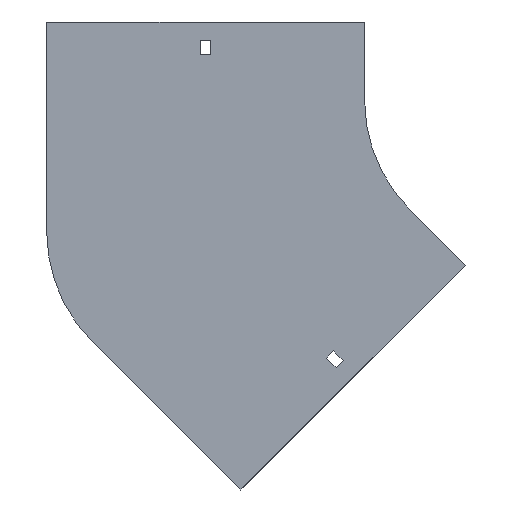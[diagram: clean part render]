
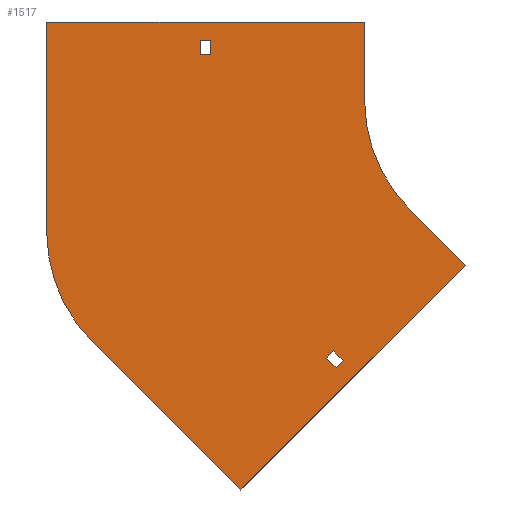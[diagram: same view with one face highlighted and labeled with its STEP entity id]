
A CAD part, front view. The second image highlights one B-rep face of the part: STEP entity #1517.
In plain terms, the highlighted planar face has unit normal (0, -1, 0).
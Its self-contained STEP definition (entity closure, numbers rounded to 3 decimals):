
#7 = EDGE_CURVE ( 'NONE', #1308, #278, #1771, .T. ) ;
#12 = VECTOR ( 'NONE', #1268, 1000. ) ;
#16 = AXIS2_PLACEMENT_3D ( 'NONE', #1565, #821, #1305 ) ;
#19 = EDGE_LOOP ( 'NONE', ( #1225, #579, #603, #1853 ) ) ;
#35 = DIRECTION ( 'NONE',  ( -1., 0., 0. ) ) ;
#61 = CARTESIAN_POINT ( 'NONE',  ( -304., 0., -84.5 ) ) ;
#72 = CARTESIAN_POINT ( 'NONE',  ( -120.031, 0., -161.044 ) ) ;
#85 = LINE ( 'NONE', #1437, #1047 ) ;
#93 = CARTESIAN_POINT ( 'NONE',  ( -118.264, 0., -172.004 ) ) ;
#123 = CARTESIAN_POINT ( 'NONE',  ( -70.711, 0., -70.711 ) ) ;
#142 = VECTOR ( 'NONE', #1684, 1000. ) ;
#168 = EDGE_CURVE ( 'NONE', #1667, #1837, #963, .T. ) ;
#182 = VERTEX_POINT ( 'NONE', #311 ) ;
#205 = CARTESIAN_POINT ( 'NONE',  ( -100., 0., 0. ) ) ;
#226 = VECTOR ( 'NONE', #1662, 1000. ) ;
#239 = VERTEX_POINT ( 'NONE', #565 ) ;
#243 = DIRECTION ( 'NONE',  ( 0., 0., -1. ) ) ;
#247 = EDGE_CURVE ( 'NONE', #1193, #880, #1175, .T. ) ;
#257 = VERTEX_POINT ( 'NONE', #1311 ) ;
#261 = LINE ( 'NONE', #93, #965 ) ;
#278 = VERTEX_POINT ( 'NONE', #827 ) ;
#282 = AXIS2_PLACEMENT_3D ( 'NONE', #1033, #1480, #1335 ) ;
#284 = EDGE_CURVE ( 'NONE', #182, #1865, #85, .T. ) ;
#301 = DIRECTION ( 'NONE',  ( 1., 0., 0. ) ) ;
#311 = CARTESIAN_POINT ( 'NONE',  ( -205.25, 0., 38. ) ) ;
#317 = VERTEX_POINT ( 'NONE', #1447 ) ;
#334 = CARTESIAN_POINT ( 'NONE',  ( -198.75, 0., 29. ) ) ;
#365 = FACE_BOUND ( 'NONE', #1461, .T. ) ;
#366 = ORIENTED_EDGE ( 'NONE', *, *, #7, .F. ) ;
#368 = CARTESIAN_POINT ( 'NONE',  ( -304., 0., 50. ) ) ;
#403 = ORIENTED_EDGE ( 'NONE', *, *, #247, .F. ) ;
#412 = ORIENTED_EDGE ( 'NONE', *, *, #1659, .T. ) ;
#424 = EDGE_CURVE ( 'NONE', #1837, #239, #1793, .T. ) ;
#443 = VECTOR ( 'NONE', #35, 1000. ) ;
#462 = VECTOR ( 'NONE', #618, 1000. ) ;
#471 = CARTESIAN_POINT ( 'NONE',  ( -113.667, 0., -167.408 ) ) ;
#548 = VERTEX_POINT ( 'NONE', #1550 ) ;
#551 = ORIENTED_EDGE ( 'NONE', *, *, #654, .F. ) ;
#565 = CARTESIAN_POINT ( 'NONE',  ( -124.628, 0., -165.64 ) ) ;
#579 = ORIENTED_EDGE ( 'NONE', *, *, #1531, .F. ) ;
#603 = ORIENTED_EDGE ( 'NONE', *, *, #424, .F. ) ;
#618 = DIRECTION ( 'NONE',  ( 0., 0., 1. ) ) ;
#627 = CIRCLE ( 'NONE', #282, 100. ) ;
#654 = EDGE_CURVE ( 'NONE', #317, #783, #1436, .T. ) ;
#661 = ORIENTED_EDGE ( 'NONE', *, *, #685, .F. ) ;
#672 = EDGE_CURVE ( 'NONE', #736, #1667, #261, .T. ) ;
#685 = EDGE_CURVE ( 'NONE', #783, #1308, #1445, .T. ) ;
#712 = CIRCLE ( 'NONE', #1181, 100. ) ;
#714 = CARTESIAN_POINT ( 'NONE',  ( -35.355, 0., -106.066 ) ) ;
#736 = VERTEX_POINT ( 'NONE', #1741 ) ;
#783 = VERTEX_POINT ( 'NONE', #1034 ) ;
#802 = ORIENTED_EDGE ( 'NONE', *, *, #1515, .T. ) ;
#821 = DIRECTION ( 'NONE',  ( 0., -1., 0. ) ) ;
#827 = CARTESIAN_POINT ( 'NONE',  ( -274.711, 0., -155.21 ) ) ;
#838 = VECTOR ( 'NONE', #995, 1000. ) ;
#856 = CARTESIAN_POINT ( 'NONE',  ( -179.605, 0., -250.316 ) ) ;
#865 = VECTOR ( 'NONE', #1120, 1000. ) ;
#876 = VERTEX_POINT ( 'NONE', #1077 ) ;
#880 = VERTEX_POINT ( 'NONE', #205 ) ;
#888 = CARTESIAN_POINT ( 'NONE',  ( -124.628, 0., -165.64 ) ) ;
#948 = CARTESIAN_POINT ( 'NONE',  ( -179.605, 0., -250.316 ) ) ;
#963 = LINE ( 'NONE', #72, #12 ) ;
#965 = VECTOR ( 'NONE', #1163, 1000. ) ;
#966 = EDGE_CURVE ( 'NONE', #257, #1070, #1363, .T. ) ;
#970 = PLANE ( 'NONE',  #16 ) ;
#987 = DIRECTION ( 'NONE',  ( 0., 0., -1. ) ) ;
#995 = DIRECTION ( 'NONE',  ( 0.707, 0., -0.707 ) ) ;
#1017 = DIRECTION ( 'NONE',  ( 1., 0., 0. ) ) ;
#1033 = CARTESIAN_POINT ( 'NONE',  ( -204., 0., -84.5 ) ) ;
#1034 = CARTESIAN_POINT ( 'NONE',  ( -35.355, 0., -106.066 ) ) ;
#1047 = VECTOR ( 'NONE', #1017, 1000. ) ;
#1063 = CARTESIAN_POINT ( 'NONE',  ( -100., 0., 50. ) ) ;
#1070 = VERTEX_POINT ( 'NONE', #368 ) ;
#1077 = CARTESIAN_POINT ( 'NONE',  ( -205.25, 0., 29. ) ) ;
#1096 = LINE ( 'NONE', #1834, #443 ) ;
#1115 = VECTOR ( 'NONE', #1905, 1000. ) ;
#1120 = DIRECTION ( 'NONE',  ( 0., 0., 1. ) ) ;
#1124 = VECTOR ( 'NONE', #1309, 1000. ) ;
#1163 = DIRECTION ( 'NONE',  ( 0.707, 0., 0.707 ) ) ;
#1175 = LINE ( 'NONE', #1890, #1774 ) ;
#1181 = AXIS2_PLACEMENT_3D ( 'NONE', #1706, #1871, #987 ) ;
#1186 = ORIENTED_EDGE ( 'NONE', *, *, #1249, .F. ) ;
#1187 = CARTESIAN_POINT ( 'NONE',  ( -304., 0., 50. ) ) ;
#1193 = VERTEX_POINT ( 'NONE', #1063 ) ;
#1207 = ORIENTED_EDGE ( 'NONE', *, *, #1236, .F. ) ;
#1223 = LINE ( 'NONE', #334, #142 ) ;
#1225 = ORIENTED_EDGE ( 'NONE', *, *, #672, .F. ) ;
#1236 = EDGE_CURVE ( 'NONE', #278, #257, #627, .T. ) ;
#1249 = EDGE_CURVE ( 'NONE', #1070, #1193, #1646, .T. ) ;
#1258 = VECTOR ( 'NONE', #1624, 1000. ) ;
#1268 = DIRECTION ( 'NONE',  ( -0.707, 0., 0.707 ) ) ;
#1286 = CARTESIAN_POINT ( 'NONE',  ( -205.25, 0., 29. ) ) ;
#1287 = EDGE_LOOP ( 'NONE', ( #1186, #1873, #1207, #366, #661, #551, #1489, #403 ) ) ;
#1305 = DIRECTION ( 'NONE',  ( 0., 0., -1. ) ) ;
#1308 = VERTEX_POINT ( 'NONE', #948 ) ;
#1309 = DIRECTION ( 'NONE',  ( -0.707, 0., -0.707 ) ) ;
#1311 = CARTESIAN_POINT ( 'NONE',  ( -304., 0., -84.5 ) ) ;
#1335 = DIRECTION ( 'NONE',  ( 0., 0., 1. ) ) ;
#1342 = ORIENTED_EDGE ( 'NONE', *, *, #1704, .T. ) ;
#1363 = LINE ( 'NONE', #61, #462 ) ;
#1379 = VECTOR ( 'NONE', #301, 1000. ) ;
#1436 = LINE ( 'NONE', #123, #838 ) ;
#1437 = CARTESIAN_POINT ( 'NONE',  ( -205.25, 0., 38. ) ) ;
#1445 = LINE ( 'NONE', #714, #1124 ) ;
#1447 = CARTESIAN_POINT ( 'NONE',  ( -70.711, 0., -70.711 ) ) ;
#1461 = EDGE_LOOP ( 'NONE', ( #802, #1767, #1342, #412 ) ) ;
#1480 = DIRECTION ( 'NONE',  ( 0., 1., 0. ) ) ;
#1489 = ORIENTED_EDGE ( 'NONE', *, *, #1830, .F. ) ;
#1515 = EDGE_CURVE ( 'NONE', #876, #182, #1712, .T. ) ;
#1517 = ADVANCED_FACE ( 'NONE', ( #365, #1721, #1894 ), #970, .T. ) ;
#1531 = EDGE_CURVE ( 'NONE', #239, #736, #1729, .T. ) ;
#1550 = CARTESIAN_POINT ( 'NONE',  ( -198.75, 0., 29. ) ) ;
#1565 = CARTESIAN_POINT ( 'NONE',  ( 0., 0., 0. ) ) ;
#1581 = CARTESIAN_POINT ( 'NONE',  ( -120.031, 0., -161.044 ) ) ;
#1591 = CARTESIAN_POINT ( 'NONE',  ( -198.75, 0., 38. ) ) ;
#1624 = DIRECTION ( 'NONE',  ( -0.707, 0., 0.707 ) ) ;
#1646 = LINE ( 'NONE', #1187, #1379 ) ;
#1659 = EDGE_CURVE ( 'NONE', #548, #876, #1096, .T. ) ;
#1662 = DIRECTION ( 'NONE',  ( -0.707, 0., -0.707 ) ) ;
#1667 = VERTEX_POINT ( 'NONE', #471 ) ;
#1684 = DIRECTION ( 'NONE',  ( 0., 0., -1. ) ) ;
#1704 = EDGE_CURVE ( 'NONE', #1865, #548, #1223, .T. ) ;
#1706 = CARTESIAN_POINT ( 'NONE',  ( 0., 0., 0. ) ) ;
#1712 = LINE ( 'NONE', #1286, #865 ) ;
#1721 = FACE_OUTER_BOUND ( 'NONE', #1287, .T. ) ;
#1729 = LINE ( 'NONE', #1881, #1115 ) ;
#1741 = CARTESIAN_POINT ( 'NONE',  ( -118.264, 0., -172.004 ) ) ;
#1767 = ORIENTED_EDGE ( 'NONE', *, *, #284, .T. ) ;
#1771 = LINE ( 'NONE', #856, #1258 ) ;
#1774 = VECTOR ( 'NONE', #243, 1000. ) ;
#1793 = LINE ( 'NONE', #888, #226 ) ;
#1830 = EDGE_CURVE ( 'NONE', #880, #317, #712, .T. ) ;
#1834 = CARTESIAN_POINT ( 'NONE',  ( -205.25, 0., 29. ) ) ;
#1837 = VERTEX_POINT ( 'NONE', #1581 ) ;
#1853 = ORIENTED_EDGE ( 'NONE', *, *, #168, .F. ) ;
#1865 = VERTEX_POINT ( 'NONE', #1591 ) ;
#1871 = DIRECTION ( 'NONE',  ( 0., -1., 0. ) ) ;
#1873 = ORIENTED_EDGE ( 'NONE', *, *, #966, .F. ) ;
#1881 = CARTESIAN_POINT ( 'NONE',  ( -124.628, 0., -165.64 ) ) ;
#1890 = CARTESIAN_POINT ( 'NONE',  ( -100., 0., 50. ) ) ;
#1894 = FACE_BOUND ( 'NONE', #19, .T. ) ;
#1905 = DIRECTION ( 'NONE',  ( 0.707, 0., -0.707 ) ) ;
